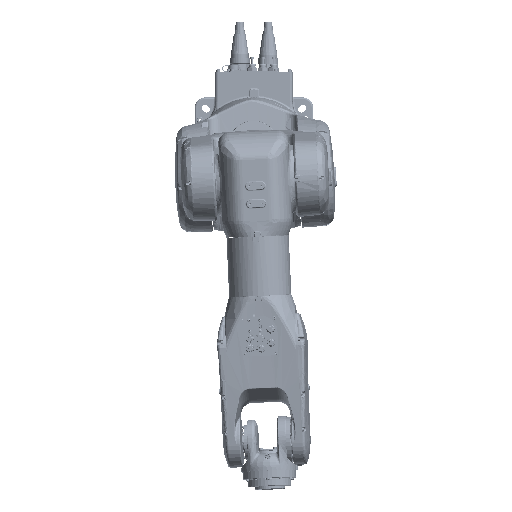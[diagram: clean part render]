
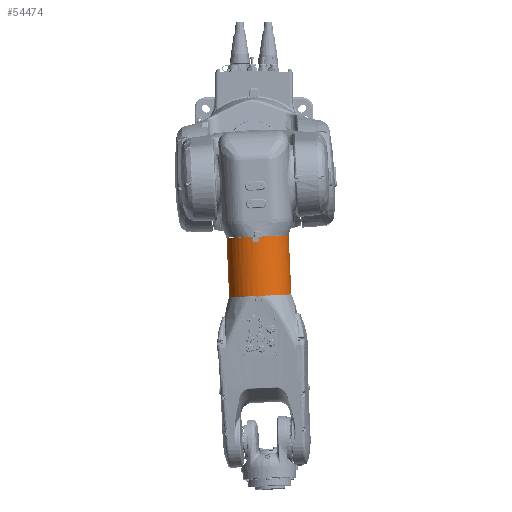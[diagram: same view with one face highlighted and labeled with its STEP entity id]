
A CAD part, front view. The second image highlights one B-rep face of the part: STEP entity #54474.
In plain terms, the highlighted cylindrical face has radius 52.55 mm (diameter 105.1 mm), a partial arc.
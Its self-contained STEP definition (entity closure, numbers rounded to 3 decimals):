
#4551 = CARTESIAN_POINT ( 'NONE',  ( 52.55, 0., -99.5 ) ) ;
#12166 = VERTEX_POINT ( 'NONE', #145812 ) ;
#12824 = CARTESIAN_POINT ( 'NONE',  ( 5.29, -52.283, -7.823 ) ) ;
#17104 = CARTESIAN_POINT ( 'NONE',  ( -5.52, -52.26, -7.506 ) ) ;
#19443 = CARTESIAN_POINT ( 'NONE',  ( -3.335, -52.444, -8.981 ) ) ;
#22107 = CARTESIAN_POINT ( 'NONE',  ( 3.334, -52.446, -9. ) ) ;
#30106 = CARTESIAN_POINT ( 'NONE',  ( -5.888, -52.219, 0. ) ) ;
#32660 = FACE_OUTER_BOUND ( 'NONE', #154246, .T. ) ;
#36005 = ORIENTED_EDGE ( 'NONE', *, *, #304136, .F. ) ;
#38576 = AXIS2_PLACEMENT_3D ( 'NONE', #189913, #109622, #334503 ) ;
#48368 = CARTESIAN_POINT ( 'NONE',  ( 5.593, -52.252, -7.324 ) ) ;
#51693 = DIRECTION ( 'NONE',  ( -1., 0., 0. ) ) ;
#54474 = ADVANCED_FACE ( 'NONE', ( #32660 ), #143851, .T. ) ;
#57230 = CARTESIAN_POINT ( 'NONE',  ( -5.888, -52.219, -6.395 ) ) ;
#61129 = CIRCLE ( 'NONE', #38576, 52.55 ) ;
#66943 = CARTESIAN_POINT ( 'NONE',  ( 3.719, -52.419, -8.921 ) ) ;
#83781 = CARTESIAN_POINT ( 'NONE',  ( 5.794, -52.23, -6.776 ) ) ;
#85224 = CARTESIAN_POINT ( 'NONE',  ( 52.55, 0., 0. ) ) ;
#85819 = VERTEX_POINT ( 'NONE', #185196 ) ;
#86721 = LINE ( 'NONE', #233515, #429070 ) ;
#88080 = CARTESIAN_POINT ( 'NONE',  ( -3.714, -52.419, -8.903 ) ) ;
#92225 = CARTESIAN_POINT ( 'NONE',  ( -52.55, 0., -99.5 ) ) ;
#93799 = VERTEX_POINT ( 'NONE', #174224 ) ;
#95482 = CARTESIAN_POINT ( 'NONE',  ( 4.259, -52.377, -8.691 ) ) ;
#103236 = ORIENTED_EDGE ( 'NONE', *, *, #378310, .T. ) ;
#108245 = EDGE_CURVE ( 'NONE', #12166, #85819, #462643, .T. ) ;
#109622 = DIRECTION ( 'NONE',  ( 0., 0., 1. ) ) ;
#114404 = CARTESIAN_POINT ( 'NONE',  ( 2.944, -52.467, -9. ) ) ;
#115163 = ORIENTED_EDGE ( 'NONE', *, *, #214943, .T. ) ;
#116388 = LINE ( 'NONE', #260935, #180762 ) ;
#119287 = CARTESIAN_POINT ( 'NONE',  ( 5.888, -52.219, -6.196 ) ) ;
#123413 = DIRECTION ( 'NONE',  ( 0., 0., 1. ) ) ;
#128677 = CARTESIAN_POINT ( 'NONE',  ( 52.55, 0., -99.5 ) ) ;
#141379 = VECTOR ( 'NONE', #440212, 1000. ) ;
#143851 = CYLINDRICAL_SURFACE ( 'NONE', #194402, 52.55 ) ;
#145812 = CARTESIAN_POINT ( 'NONE',  ( -2.944, -52.467, -9. ) ) ;
#151908 = VERTEX_POINT ( 'NONE', #30106 ) ;
#154246 = EDGE_LOOP ( 'NONE', ( #215491, #330283, #180820, #36005, #103236, #253236, #115163, #332865, #210726, #295753 ) ) ;
#174224 = CARTESIAN_POINT ( 'NONE',  ( -52.55, 0., 0. ) ) ;
#174647 = CARTESIAN_POINT ( 'NONE',  ( 0., 0., -99.5 ) ) ;
#180762 = VECTOR ( 'NONE', #123413, 1000. ) ;
#180820 = ORIENTED_EDGE ( 'NONE', *, *, #281049, .T. ) ;
#184430 = CARTESIAN_POINT ( 'NONE',  ( -5.888, -52.219, -99.5 ) ) ;
#185196 = CARTESIAN_POINT ( 'NONE',  ( -5.888, -52.219, -6. ) ) ;
#187548 = EDGE_CURVE ( 'NONE', #373210, #436622, #418595, .T. ) ;
#189913 = CARTESIAN_POINT ( 'NONE',  ( 0., 0., 0. ) ) ;
#190319 = CARTESIAN_POINT ( 'NONE',  ( 5.888, -52.219, -6. ) ) ;
#194402 = AXIS2_PLACEMENT_3D ( 'NONE', #174647, #321542, #465942 ) ;
#198443 = AXIS2_PLACEMENT_3D ( 'NONE', #322509, #320185, #327176 ) ;
#201555 = CARTESIAN_POINT ( 'NONE',  ( -4.442, -52.363, -8.613 ) ) ;
#204285 = CARTESIAN_POINT ( 'NONE',  ( 4.748, -52.335, -8.379 ) ) ;
#207492 = VECTOR ( 'NONE', #298032, 1000. ) ;
#208228 = VERTEX_POINT ( 'NONE', #319073 ) ;
#210726 = ORIENTED_EDGE ( 'NONE', *, *, #405183, .T. ) ;
#214943 = EDGE_CURVE ( 'NONE', #369163, #12166, #408502, .T. ) ;
#215491 = ORIENTED_EDGE ( 'NONE', *, *, #365428, .F. ) ;
#222362 = LINE ( 'NONE', #184430, #141379 ) ;
#224618 = CARTESIAN_POINT ( 'NONE',  ( 0., 0., -9. ) ) ;
#226946 = LINE ( 'NONE', #4551, #207492 ) ;
#228259 = CARTESIAN_POINT ( 'NONE',  ( 5.869, -52.221, -6.392 ) ) ;
#233515 = CARTESIAN_POINT ( 'NONE',  ( 5.888, -52.219, -99.5 ) ) ;
#251730 = VERTEX_POINT ( 'NONE', #85224 ) ;
#253236 = ORIENTED_EDGE ( 'NONE', *, *, #296834, .T. ) ;
#260935 = CARTESIAN_POINT ( 'NONE',  ( -52.55, 0., -99.5 ) ) ;
#275112 = CARTESIAN_POINT ( 'NONE',  ( -5.309, -52.282, -7.83 ) ) ;
#277786 = CARTESIAN_POINT ( 'NONE',  ( 5.17, -52.295, -7.973 ) ) ;
#281049 = EDGE_CURVE ( 'NONE', #436622, #251730, #226946, .T. ) ;
#283824 = DIRECTION ( 'NONE',  ( 0., 0., 1. ) ) ;
#294334 = AXIS2_PLACEMENT_3D ( 'NONE', #350216, #283824, #392762 ) ;
#295753 = ORIENTED_EDGE ( 'NONE', *, *, #349414, .F. ) ;
#296834 = EDGE_CURVE ( 'NONE', #208228, #369163, #361339, .T. ) ;
#298032 = DIRECTION ( 'NONE',  ( 0., 0., 1. ) ) ;
#304136 = EDGE_CURVE ( 'NONE', #421766, #251730, #339953, .T. ) ;
#312952 = CARTESIAN_POINT ( 'NONE',  ( -3.901, -52.405, -8.844 ) ) ;
#315246 = CARTESIAN_POINT ( 'NONE',  ( -2.944, -52.467, -9. ) ) ;
#319073 = CARTESIAN_POINT ( 'NONE',  ( 5.888, -52.219, -6. ) ) ;
#320185 = DIRECTION ( 'NONE',  ( 0., 0., 1. ) ) ;
#321542 = DIRECTION ( 'NONE',  ( 0., 0., 1. ) ) ;
#322509 = CARTESIAN_POINT ( 'NONE',  ( 0., 0., -99.5 ) ) ;
#327176 = DIRECTION ( 'NONE',  ( 1., 0., 0. ) ) ;
#330283 = ORIENTED_EDGE ( 'NONE', *, *, #187548, .T. ) ;
#332865 = ORIENTED_EDGE ( 'NONE', *, *, #108245, .T. ) ;
#334503 = DIRECTION ( 'NONE',  ( 1., 0., 0. ) ) ;
#337196 = CARTESIAN_POINT ( 'NONE',  ( 5.503, -52.261, -7.497 ) ) ;
#339953 = CIRCLE ( 'NONE', #294334, 52.55 ) ;
#346477 = CARTESIAN_POINT ( 'NONE',  ( 4.897, -52.322, -8.253 ) ) ;
#347055 = DIRECTION ( 'NONE',  ( 0., 0., -1. ) ) ;
#349414 = EDGE_CURVE ( 'NONE', #93799, #151908, #61129, .T. ) ;
#350216 = CARTESIAN_POINT ( 'NONE',  ( 0., 0., 0. ) ) ;
#355921 = CARTESIAN_POINT ( 'NONE',  ( 2.944, -52.467, -9. ) ) ;
#361339 = B_SPLINE_CURVE_WITH_KNOTS ( 'NONE', 3,
 ( #190319, #119287, #228259, #83781, #372834, #48368, #337196, #12824, #277786, #346477, #204285, #417569, #95482, #66943, #22107, #355921 ),
 .UNSPECIFIED., .F., .F.,
 ( 4, 2, 2, 2, 2, 2, 2, 4 ),
 ( 0., 0.125, 0.25, 0.375, 0.5, 0.625, 0.75, 1. ),
 .UNSPECIFIED. ) ;
#365428 = EDGE_CURVE ( 'NONE', #373210, #93799, #116388, .T. ) ;
#369163 = VERTEX_POINT ( 'NONE', #114404 ) ;
#372834 = CARTESIAN_POINT ( 'NONE',  ( 5.739, -52.236, -6.962 ) ) ;
#373210 = VERTEX_POINT ( 'NONE', #92225 ) ;
#377074 = CARTESIAN_POINT ( 'NONE',  ( -5.814, -52.228, -6.775 ) ) ;
#378310 = EDGE_CURVE ( 'NONE', #421766, #208228, #86721, .T. ) ;
#379429 = CARTESIAN_POINT ( 'NONE',  ( -4.761, -52.335, -8.393 ) ) ;
#392762 = DIRECTION ( 'NONE',  ( 1., 0., 0. ) ) ;
#393104 = CARTESIAN_POINT ( 'NONE',  ( 5.888, -52.219, 0. ) ) ;
#402311 = DIRECTION ( 'NONE',  ( 0., 0., -1. ) ) ;
#405183 = EDGE_CURVE ( 'NONE', #85819, #151908, #222362, .T. ) ;
#408502 = CIRCLE ( 'NONE', #446353, 52.55 ) ;
#417569 = CARTESIAN_POINT ( 'NONE',  ( 4.427, -52.363, -8.599 ) ) ;
#418595 = CIRCLE ( 'NONE', #198443, 52.55 ) ;
#419498 = CARTESIAN_POINT ( 'NONE',  ( -5.888, -52.219, -6. ) ) ;
#421766 = VERTEX_POINT ( 'NONE', #393104 ) ;
#429070 = VECTOR ( 'NONE', #347055, 1000. ) ;
#436622 = VERTEX_POINT ( 'NONE', #128677 ) ;
#440212 = DIRECTION ( 'NONE',  ( 0., 0., 1. ) ) ;
#446353 = AXIS2_PLACEMENT_3D ( 'NONE', #224618, #402311, #51693 ) ;
#459672 = CARTESIAN_POINT ( 'NONE',  ( -3.141, -52.456, -9. ) ) ;
#462643 = B_SPLINE_CURVE_WITH_KNOTS ( 'NONE', 3,
 ( #315246, #459672, #19443, #88080, #312952, #201555, #379429, #275112, #17104, #377074, #57230, #419498 ),
 .UNSPECIFIED., .F., .F.,
 ( 4, 2, 2, 2, 2, 4 ),
 ( 0., 0.125, 0.25, 0.5, 0.75, 1. ),
 .UNSPECIFIED. ) ;
#465942 = DIRECTION ( 'NONE',  ( 1., 0., 0. ) ) ;
